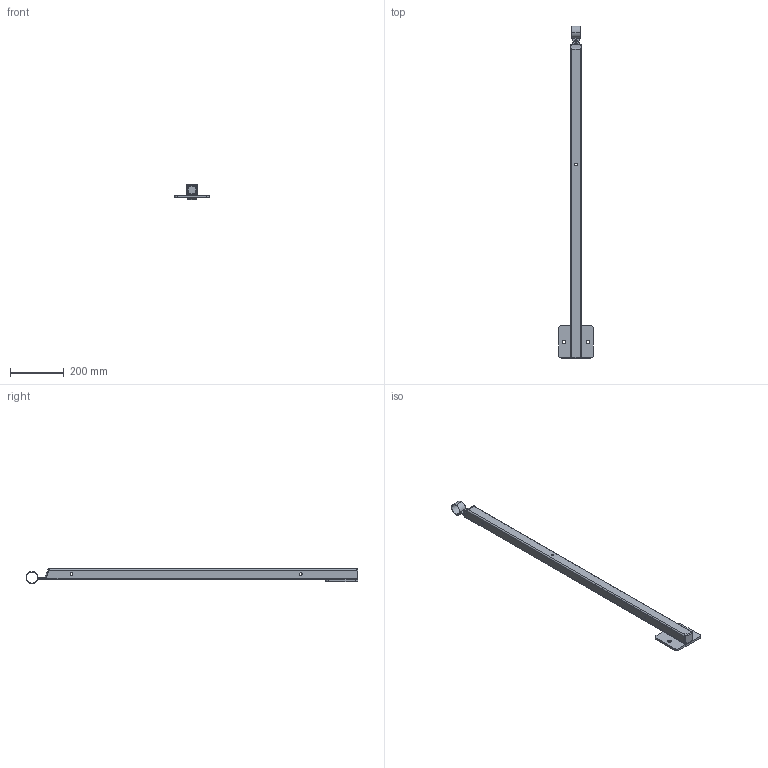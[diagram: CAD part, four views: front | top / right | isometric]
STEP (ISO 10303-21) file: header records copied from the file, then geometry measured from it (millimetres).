
FILE_DESCRIPTION (( 'STEP AP203' ), '1' );
FILE_NAME ('Ståndare KKR 40x40x3 sidomontage för rundstångsräcke.STEP', '2014-09-26T06:37:45', ( '' ), ( '' ), 'SwSTEP 2.0', 'SolidWorks 2014', '' );
FILE_SCHEMA (( 'CONFIG_CONTROL_DESIGN' ));
Length unit declared in the file: millimetre
Products named in the file (1): Ståndare KKR 40x40x3 sidomontage för rundstångsräcke
Bounding box: 130 x 1236.5 x 56.67 mm (x, y, z)
Volume: 638067.1 mm3; surface area: 384543.4 mm2
Topology: 2 solids, 2 shells, 306 faces, 803 edges, 488 vertices
Faces by surface type: plane 184, cylinder 114, bspline 8
Entity records: 9614 total; most frequent: CARTESIAN_POINT 2116, ORIENTED_EDGE 1590, DIRECTION 1487, EDGE_CURVE 795, VECTOR 569, LINE 569, VERTEX_POINT 488, AXIS2_PLACEMENT_3D 459
